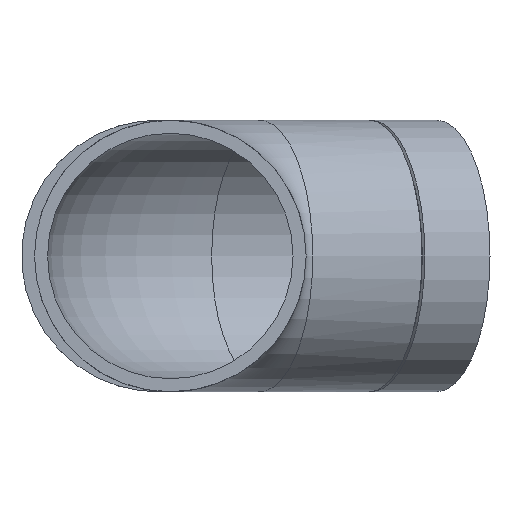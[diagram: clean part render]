
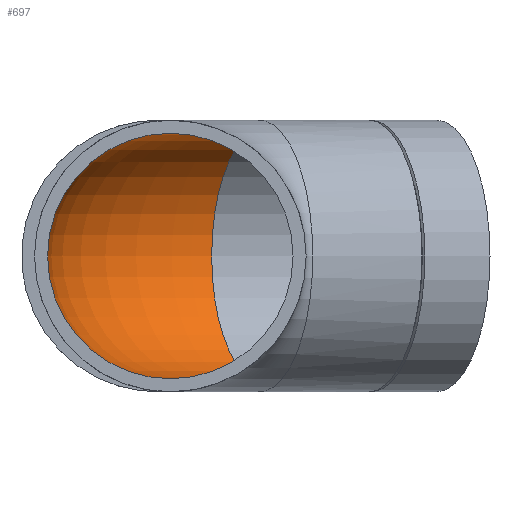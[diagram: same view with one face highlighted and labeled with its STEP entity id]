
A CAD part, front view. The second image highlights one B-rep face of the part: STEP entity #697.
In plain terms, the highlighted toroidal (fillet/blend) face has major radius 40.5 mm and minor radius 33.9 mm.
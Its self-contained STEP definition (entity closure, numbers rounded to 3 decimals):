
#13=TOROIDAL_SURFACE($,#769,40.5,33.9);
#128=FACE_BOUND($,#224,.T.);
#170=FACE_OUTER_BOUND($,#223,.T.);
#223=EDGE_LOOP($,(#606));
#224=EDGE_LOOP($,(#607));
#263=CIRCLE($,#770,33.9);
#264=CIRCLE($,#771,33.9);
#334=VERTEX_POINT($,#1809);
#335=VERTEX_POINT($,#1811);
#427=EDGE_CURVE($,#334,#334,#263,.T.);
#428=EDGE_CURVE($,#335,#335,#264,.T.);
#606=ORIENTED_EDGE($,*,*,#427,.F.);
#607=ORIENTED_EDGE($,*,*,#428,.T.);
#697=ADVANCED_FACE($,(#170,#128),#13,.F.);
#769=AXIS2_PLACEMENT_3D($,#1808,#912,#913);
#770=AXIS2_PLACEMENT_3D($,#1810,#914,#915);
#771=AXIS2_PLACEMENT_3D($,#1812,#916,#917);
#912=DIRECTION('center_axis',(0.,0.,-1.));
#913=DIRECTION('ref_axis',(-1.,0.,0.));
#914=DIRECTION('center_axis',(-0.921,-0.391,0.));
#915=DIRECTION('ref_axis',(0.391,-0.921,0.));
#916=DIRECTION('center_axis',(0.,-1.,0.));
#917=DIRECTION('ref_axis',(1.,0.,0.));
#1808=CARTESIAN_POINT('Origin',(40.5,33.194,0.));
#1809=CARTESIAN_POINT('',(11.43,101.679,0.));
#1810=CARTESIAN_POINT('Origin',(24.675,70.474,0.));
#1811=CARTESIAN_POINT('',(-33.9,33.194,0.));
#1812=CARTESIAN_POINT('Origin',(0.,33.194,0.));
